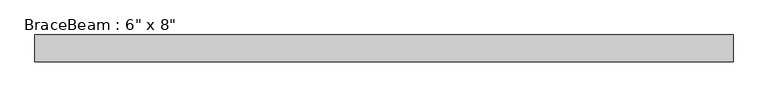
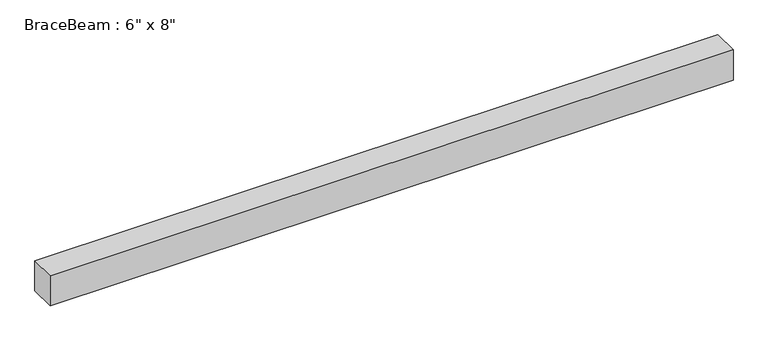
"""IFC4 building model written with IfcOpenShell, lengths in millimetres: beam geometry."""

from ifc_helpers import new_model, si_unit, frame, origin, place, context, project, spatial, polyline, outline, extrude, source, transform, mapped, element, save


def beam_8a68365d(model_context):
    return source(origin(), model_context, "Body", "SweptSolid", [
        extrude(outline(polyline([(-1981.195, -76.2), (-1981.195, 76.2), (1981.195, 76.2), (1981.195, -76.2), (-1981.195, -76.2)])), frame((0.0, 0.0, -92.075), z_axis=(0.0, 0.0, 1.0), x_axis=(1.0, 0.0, 0.0)), (0.0, 0.0, 1.0), 184.15),
    ])


if __name__ == "__main__":
    model = new_model("IFC4")
    model_context = context("Model", 3, world=origin())
    ifc_project = project(units=[si_unit("LENGTHUNIT", "METRE", prefix="MILLI")], contexts=[model_context])
    site = spatial("IfcSite", under=ifc_project)
    building = spatial("IfcBuilding", under=site)
    placement = place(None, origin())
    beam_shape = beam_8a68365d(model_context)
    element("IfcBeam", 1, ObjectType="BraceBeam : 6\" x 8\"", at=placement, inside=building, context=model_context, shape_type="MappedRepresentation", body=[
        mapped(beam_shape, transform((0.0, 0.0, 0.0), x_axis=(1.0, 0.0, 0.0), y_axis=(0.0, 1.0, 0.0), z_axis=(0.0, 0.0, 1.0))),
    ])
    save(model, "model.ifc")
